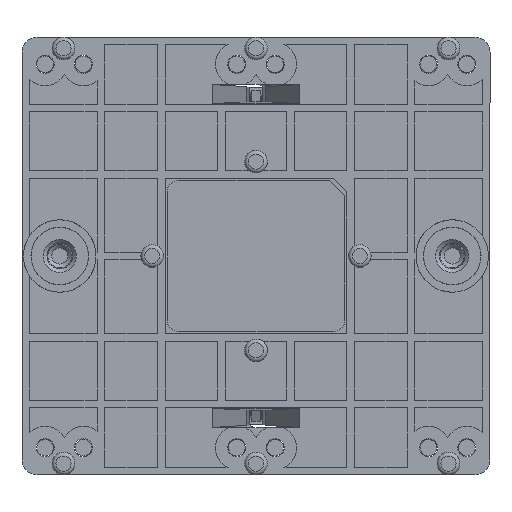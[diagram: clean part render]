
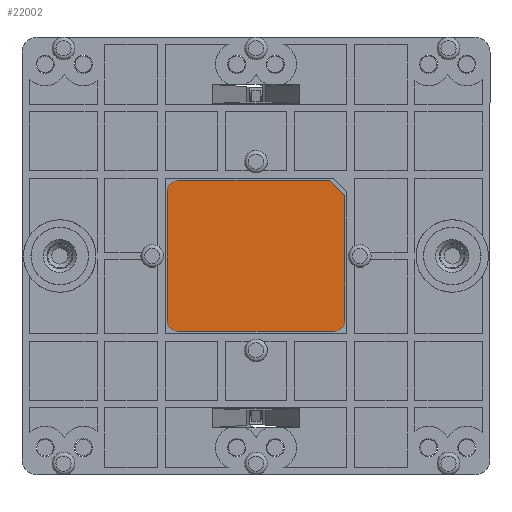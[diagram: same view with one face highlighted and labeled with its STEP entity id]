
A CAD part, left-side view. The second image highlights one B-rep face of the part: STEP entity #22002.
In plain terms, the highlighted planar face has unit normal (-1, 0, 0).
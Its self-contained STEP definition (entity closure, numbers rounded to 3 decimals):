
#21738=CARTESIAN_POINT('',(-50.023,-22.955,2.75));
#21739=VERTEX_POINT('',#21738);
#21740=CARTESIAN_POINT('',(-50.023,-22.955,19.75));
#21741=VERTEX_POINT('',#21740);
#21742=CARTESIAN_POINT('',(-50.023,-22.955,2.75));
#21743=DIRECTION('',(0.0,0.0,1.0));
#21744=VECTOR('',#21743,17.0);
#21745=LINE('',#21742,#21744);
#21746=EDGE_CURVE('',#21739,#21741,#21745,.T.);
#21778=CARTESIAN_POINT('',(-50.023,-24.455,21.25));
#21779=VERTEX_POINT('',#21778);
#21780=CARTESIAN_POINT('',(-50.023,-24.455,19.75));
#21781=DIRECTION('',(1.0,0.0,0.0));
#21782=DIRECTION('',(0.0,0.0,-1.0));
#21783=AXIS2_PLACEMENT_3D('',#21780,#21781,#21782);
#21784=CIRCLE('',#21783,1.5);
#21785=EDGE_CURVE('',#21741,#21779,#21784,.T.);
#21811=CARTESIAN_POINT('',(-50.023,-44.455,21.25));
#21812=VERTEX_POINT('',#21811);
#21813=CARTESIAN_POINT('',(-50.023,-24.455,21.25));
#21814=DIRECTION('',(0.0,-1.0,0.0));
#21815=VECTOR('',#21814,20.0);
#21816=LINE('',#21813,#21815);
#21817=EDGE_CURVE('',#21779,#21812,#21816,.T.);
#21842=CARTESIAN_POINT('',(-50.023,-46.455,19.25));
#21843=VERTEX_POINT('',#21842);
#21844=CARTESIAN_POINT('',(-50.023,-44.455,21.25));
#21845=DIRECTION('',(0.,-0.707,-0.707));
#21846=VECTOR('',#21845,2.828);
#21847=LINE('',#21844,#21846);
#21848=EDGE_CURVE('',#21812,#21843,#21847,.T.);
#21873=CARTESIAN_POINT('',(-50.023,-46.455,2.75));
#21874=VERTEX_POINT('',#21873);
#21875=CARTESIAN_POINT('',(-50.023,-46.455,19.25));
#21876=DIRECTION('',(0.0,0.0,-1.0));
#21877=VECTOR('',#21876,16.5);
#21878=LINE('',#21875,#21877);
#21879=EDGE_CURVE('',#21843,#21874,#21878,.T.);
#21904=CARTESIAN_POINT('',(-50.023,-44.955,1.25));
#21905=VERTEX_POINT('',#21904);
#21906=CARTESIAN_POINT('',(-50.023,-44.955,2.75));
#21907=DIRECTION('',(1.0,0.0,0.0));
#21908=DIRECTION('',(0.0,0.0,1.0));
#21909=AXIS2_PLACEMENT_3D('',#21906,#21907,#21908);
#21910=CIRCLE('',#21909,1.5);
#21911=EDGE_CURVE('',#21874,#21905,#21910,.T.);
#21937=CARTESIAN_POINT('',(-50.023,-24.455,1.25));
#21938=VERTEX_POINT('',#21937);
#21939=CARTESIAN_POINT('',(-50.023,-44.955,1.25));
#21940=DIRECTION('',(0.0,1.0,0.0));
#21941=VECTOR('',#21940,20.5);
#21942=LINE('',#21939,#21941);
#21943=EDGE_CURVE('',#21905,#21938,#21942,.T.);
#21968=CARTESIAN_POINT('',(-50.023,-24.455,2.75));
#21969=DIRECTION('',(1.0,0.0,0.0));
#21970=DIRECTION('',(0.0,-1.0,0.0));
#21971=AXIS2_PLACEMENT_3D('',#21968,#21969,#21970);
#21972=CIRCLE('',#21971,1.5);
#21973=EDGE_CURVE('',#21938,#21739,#21972,.T.);
#21987=CARTESIAN_POINT('',(-50.023,-34.624,11.18));
#21988=DIRECTION('',(-1.0,0.0,0.0));
#21989=DIRECTION('',(0.0,1.0,0.0));
#21990=AXIS2_PLACEMENT_3D('',#21987,#21988,#21989);
#21991=PLANE('',#21990);
#21992=ORIENTED_EDGE('',*,*,#21746,.F.);
#21993=ORIENTED_EDGE('',*,*,#21973,.F.);
#21994=ORIENTED_EDGE('',*,*,#21943,.F.);
#21995=ORIENTED_EDGE('',*,*,#21911,.F.);
#21996=ORIENTED_EDGE('',*,*,#21879,.F.);
#21997=ORIENTED_EDGE('',*,*,#21848,.F.);
#21998=ORIENTED_EDGE('',*,*,#21817,.F.);
#21999=ORIENTED_EDGE('',*,*,#21785,.F.);
#22000=EDGE_LOOP('',(#21992,#21993,#21994,#21995,#21996,#21997,#21998,#21999));
#22001=FACE_OUTER_BOUND('',#22000,.T.);
#22002=ADVANCED_FACE('',(#22001),#21991,.T.);
